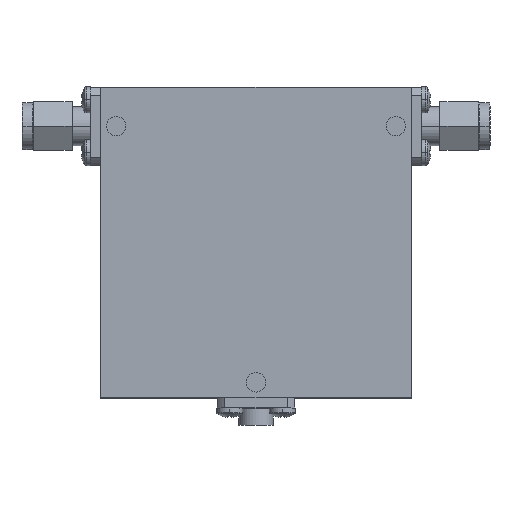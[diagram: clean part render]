
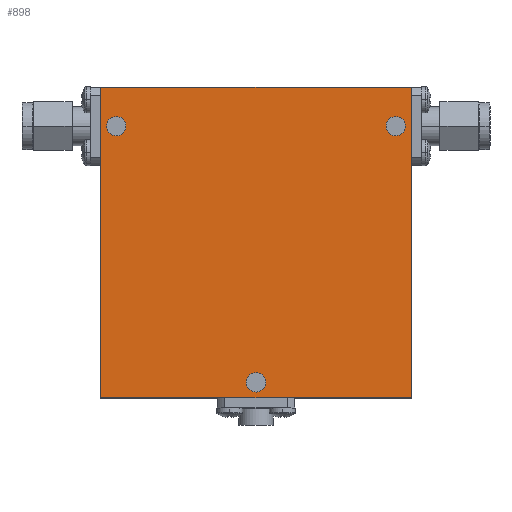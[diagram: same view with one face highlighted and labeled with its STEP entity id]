
A CAD part, top view. The second image highlights one B-rep face of the part: STEP entity #898.
In plain terms, the highlighted planar face has unit normal (0, 0, 1) as drawn and (0, 0, -1) by its records, which use the part's own axes.
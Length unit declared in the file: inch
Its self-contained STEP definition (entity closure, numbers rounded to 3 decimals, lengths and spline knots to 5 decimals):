
#46 = AXIS2_PLACEMENT_3D ( 'NONE', #1327, #4014, #4347 ) ;
#48 = DIRECTION ( 'NONE',  ( 1., 0., 0. ) ) ;
#49 = LINE ( 'NONE', #2332, #1900 ) ;
#120 = PLANE ( 'NONE',  #734 ) ;
#212 = CIRCLE ( 'NONE', #4111, 0.0625 ) ;
#220 = CARTESIAN_POINT ( 'NONE',  ( -0.65, 1., -0.35 ) ) ;
#227 = VECTOR ( 'NONE', #3958, 39.37008 ) ;
#228 = EDGE_LOOP ( 'NONE', ( #719, #447, #1035, #2086 ) ) ;
#317 = DIRECTION ( 'NONE',  ( 1., 0., 0. ) ) ;
#356 = AXIS2_PLACEMENT_3D ( 'NONE', #791, #2823, #2125 ) ;
#399 = ORIENTED_EDGE ( 'NONE', *, *, #1013, .T. ) ;
#447 = ORIENTED_EDGE ( 'NONE', *, *, #3619, .F. ) ;
#464 = DIRECTION ( 'NONE',  ( 0., 0., 1. ) ) ;
#466 = EDGE_CURVE ( 'NONE', #3142, #1162, #2348, .T. ) ;
#549 = EDGE_LOOP ( 'NONE', ( #2466, #399 ) ) ;
#581 = CIRCLE ( 'NONE', #1830, 0.0625 ) ;
#632 = CARTESIAN_POINT ( 'NONE',  ( -0.7125, 1., -0.35 ) ) ;
#636 = LINE ( 'NONE', #2345, #3577 ) ;
#693 = CARTESIAN_POINT ( 'NONE',  ( 1.15, 1., -0.35 ) ) ;
#719 = ORIENTED_EDGE ( 'NONE', *, *, #3224, .F. ) ;
#734 = AXIS2_PLACEMENT_3D ( 'NONE', #2814, #464, #1216 ) ;
#755 = DIRECTION ( 'NONE',  ( 0., 0., 1. ) ) ;
#791 = CARTESIAN_POINT ( 'NONE',  ( -0.65, 1., -0.35 ) ) ;
#838 = CARTESIAN_POINT ( 'NONE',  ( 1.25, 1.25, -0.35 ) ) ;
#898 = ADVANCED_FACE ( 'NONE', ( #2087, #4360, #2396, #2978 ), #120, .F. ) ;
#949 = VERTEX_POINT ( 'NONE', #1313 ) ;
#1013 = EDGE_CURVE ( 'NONE', #3392, #3455, #1259, .T. ) ;
#1035 = ORIENTED_EDGE ( 'NONE', *, *, #3527, .F. ) ;
#1049 = DIRECTION ( 'NONE',  ( 0., 0., 1. ) ) ;
#1058 = CARTESIAN_POINT ( 'NONE',  ( 0.25, -0.65, -0.35 ) ) ;
#1162 = VERTEX_POINT ( 'NONE', #1738 ) ;
#1216 = DIRECTION ( 'NONE',  ( 1., 0., 0. ) ) ;
#1259 = CIRCLE ( 'NONE', #46, 0.0625 ) ;
#1313 = CARTESIAN_POINT ( 'NONE',  ( -0.75, -0.75, -0.35 ) ) ;
#1327 = CARTESIAN_POINT ( 'NONE',  ( 0.25, -0.65, -0.35 ) ) ;
#1428 = EDGE_LOOP ( 'NONE', ( #4183, #4026 ) ) ;
#1541 = CIRCLE ( 'NONE', #356, 0.0625 ) ;
#1565 = EDGE_CURVE ( 'NONE', #4084, #2025, #2755, .T. ) ;
#1599 = CARTESIAN_POINT ( 'NONE',  ( -0.75, 1.25, -0.35 ) ) ;
#1738 = CARTESIAN_POINT ( 'NONE',  ( 1.2125, 1., -0.35 ) ) ;
#1750 = DIRECTION ( 'NONE',  ( 0., 0., 1. ) ) ;
#1796 = CIRCLE ( 'NONE', #4030, 0.0625 ) ;
#1830 = AXIS2_PLACEMENT_3D ( 'NONE', #693, #1049, #2021 ) ;
#1850 = DIRECTION ( 'NONE',  ( 0., 0., 1. ) ) ;
#1892 = CARTESIAN_POINT ( 'NONE',  ( -0.75, 1.25, -0.35 ) ) ;
#1900 = VECTOR ( 'NONE', #317, 39.37008 ) ;
#1953 = CARTESIAN_POINT ( 'NONE',  ( 0.3125, -0.65, -0.35 ) ) ;
#2021 = DIRECTION ( 'NONE',  ( 1., 0., 0. ) ) ;
#2025 = VERTEX_POINT ( 'NONE', #1892 ) ;
#2086 = ORIENTED_EDGE ( 'NONE', *, *, #1565, .F. ) ;
#2087 = FACE_BOUND ( 'NONE', #3026, .T. ) ;
#2100 = CARTESIAN_POINT ( 'NONE',  ( 1.25, -0.75, -0.35 ) ) ;
#2125 = DIRECTION ( 'NONE',  ( 1., 0., 0. ) ) ;
#2332 = CARTESIAN_POINT ( 'NONE',  ( -0.75, -0.75, -0.35 ) ) ;
#2345 = CARTESIAN_POINT ( 'NONE',  ( -0.75, 1.25, -0.35 ) ) ;
#2348 = CIRCLE ( 'NONE', #3291, 0.0625 ) ;
#2396 = FACE_BOUND ( 'NONE', #1428, .T. ) ;
#2422 = VECTOR ( 'NONE', #4177, 39.37008 ) ;
#2437 = VERTEX_POINT ( 'NONE', #632 ) ;
#2466 = ORIENTED_EDGE ( 'NONE', *, *, #2999, .T. ) ;
#2480 = CARTESIAN_POINT ( 'NONE',  ( 1.15, 1., -0.35 ) ) ;
#2722 = ORIENTED_EDGE ( 'NONE', *, *, #4140, .T. ) ;
#2755 = LINE ( 'NONE', #1599, #227 ) ;
#2814 = CARTESIAN_POINT ( 'NONE',  ( 0., 0., -0.35 ) ) ;
#2823 = DIRECTION ( 'NONE',  ( 0., 0., 1. ) ) ;
#2978 = FACE_OUTER_BOUND ( 'NONE', #228, .T. ) ;
#2999 = EDGE_CURVE ( 'NONE', #3455, #3392, #212, .T. ) ;
#3018 = ORIENTED_EDGE ( 'NONE', *, *, #466, .T. ) ;
#3026 = EDGE_LOOP ( 'NONE', ( #2722, #3018 ) ) ;
#3086 = VERTEX_POINT ( 'NONE', #2100 ) ;
#3110 = CARTESIAN_POINT ( 'NONE',  ( 1.0875, 1., -0.35 ) ) ;
#3142 = VERTEX_POINT ( 'NONE', #3110 ) ;
#3219 = EDGE_CURVE ( 'NONE', #4348, #2437, #1541, .T. ) ;
#3224 = EDGE_CURVE ( 'NONE', #3086, #4084, #4117, .T. ) ;
#3282 = EDGE_CURVE ( 'NONE', #2437, #4348, #1796, .T. ) ;
#3291 = AXIS2_PLACEMENT_3D ( 'NONE', #2480, #755, #3807 ) ;
#3357 = DIRECTION ( 'NONE',  ( 0., -1., 0. ) ) ;
#3392 = VERTEX_POINT ( 'NONE', #3535 ) ;
#3455 = VERTEX_POINT ( 'NONE', #1953 ) ;
#3476 = CARTESIAN_POINT ( 'NONE',  ( 1.25, 1.25, -0.35 ) ) ;
#3527 = EDGE_CURVE ( 'NONE', #2025, #949, #636, .T. ) ;
#3535 = CARTESIAN_POINT ( 'NONE',  ( 0.1875, -0.65, -0.35 ) ) ;
#3577 = VECTOR ( 'NONE', #3357, 39.37008 ) ;
#3619 = EDGE_CURVE ( 'NONE', #949, #3086, #49, .T. ) ;
#3701 = CARTESIAN_POINT ( 'NONE',  ( -0.5875, 1., -0.35 ) ) ;
#3807 = DIRECTION ( 'NONE',  ( 1., 0., 0. ) ) ;
#3958 = DIRECTION ( 'NONE',  ( -1., 0., 0. ) ) ;
#4014 = DIRECTION ( 'NONE',  ( 0., 0., 1. ) ) ;
#4026 = ORIENTED_EDGE ( 'NONE', *, *, #3282, .T. ) ;
#4030 = AXIS2_PLACEMENT_3D ( 'NONE', #220, #1850, #4251 ) ;
#4084 = VERTEX_POINT ( 'NONE', #3476 ) ;
#4111 = AXIS2_PLACEMENT_3D ( 'NONE', #1058, #1750, #48 ) ;
#4117 = LINE ( 'NONE', #838, #2422 ) ;
#4140 = EDGE_CURVE ( 'NONE', #1162, #3142, #581, .T. ) ;
#4177 = DIRECTION ( 'NONE',  ( 0., 1., 0. ) ) ;
#4183 = ORIENTED_EDGE ( 'NONE', *, *, #3219, .T. ) ;
#4251 = DIRECTION ( 'NONE',  ( 1., 0., 0. ) ) ;
#4347 = DIRECTION ( 'NONE',  ( 1., 0., 0. ) ) ;
#4348 = VERTEX_POINT ( 'NONE', #3701 ) ;
#4360 = FACE_BOUND ( 'NONE', #549, .T. ) ;
